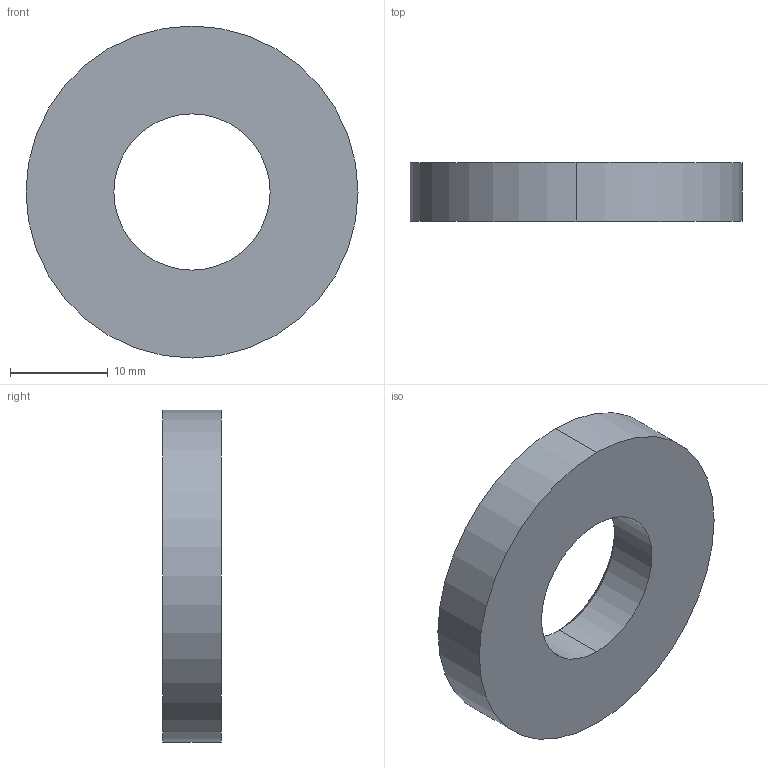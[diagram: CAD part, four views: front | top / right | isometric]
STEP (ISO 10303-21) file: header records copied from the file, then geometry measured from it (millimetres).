
FILE_DESCRIPTION (( 'STEP AP214' ), '1' );
FILE_NAME ('Soemer-SM71-M16 U-Scheibe.STEP', '2023-09-21T10:55:31', ( '' ), ( '' ), 'SwSTEP 2.0', 'SolidWorks 2019', '' );
FILE_SCHEMA (( 'AUTOMOTIVE_DESIGN' ));
Length unit declared in the file: millimetre
Products named in the file (2): Soemer-SM71-M16 U-Scheibe
Bounding box: 34 x 6 x 34 mm (x, y, z)
Volume: 4231.9 mm3; surface area: 2339 mm2
Topology: 1 solids, 1 shells, 8 faces, 16 edges, 10 vertices
Faces by surface type: cylinder 4, cone 2, plane 2
Entity records: 267 total; most frequent: DIRECTION 46, CARTESIAN_POINT 36, ORIENTED_EDGE 32, AXIS2_PLACEMENT_3D 20, EDGE_CURVE 16, EDGE_LOOP 10, CIRCLE 10, VERTEX_POINT 10
